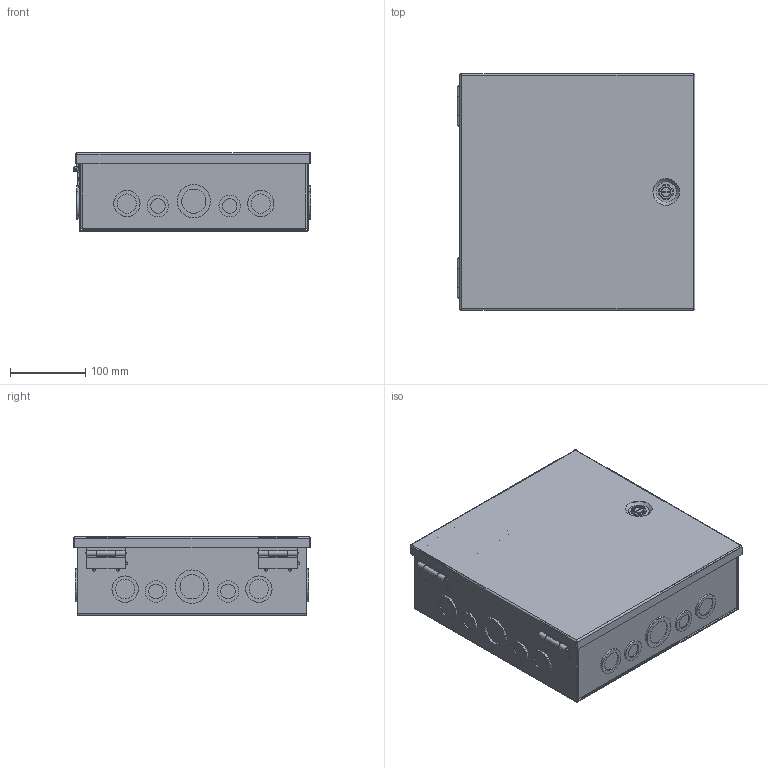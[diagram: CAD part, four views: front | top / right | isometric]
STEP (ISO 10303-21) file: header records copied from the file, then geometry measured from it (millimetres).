
FILE_DESCRIPTION( ( 'Unknown' ), '1' );
FILE_NAME( 'Q:/WEB DRAWINGS/STEP/SWB12124.stp', 'Unknown', ( 'Unknown' ), ( 'Unknown' ), 'PSStep 17.0.49', 'Unknown', ' ' );
FILE_SCHEMA( ( 'AUTOMOTIVE_DESIGN { 1 0 10303 214 1 1 1 1 }' ) );
Length unit declared in the file: millimetre
Products named in the file (11): HNG11000; HNG11000-2; HNG11000-3; Assem1; loc13368; SCS19515; QLB20292; COM56471; COM56466; COM56469
Assembly tree (12 placements, depth 3):
  Assem1
    loc13368
    SCS19515
    QLB20292
    COM56471
    COM56466  x2
    COM56469
    HNG11000  x2
      HNG11000
      HNG11000-2
      HNG11000-3
Bounding box: 316.05 x 314.45 x 104.6 mm (x, y, z)
Volume: 544323.4 mm3; surface area: 761491.1 mm2
Topology: 13 solids, 13 shells, 649 faces, 1520 edges, 1010 vertices
Faces by surface type: plane 404, cylinder 196, extrusion 22, bspline 10, cone 7, torus 6, sphere 4
Full cylindrical faces by diameter (mm): 3.175 x2, 3.327 x8, 4.318 x1, 4.826 x1, 7.137 x4, 7.214 x1, 7.9 x1, 8.1 x1, 8.128 x1, 9.3 x1, 9.525 x1, 11.9 x1, 12 x1, 12.1 x1, 12.497 x1, 12.7 x1, 13.9 x1, 19.329 x8, 20 x1, 22.225 x8, 25.679 x16, 28.575 x16, 32.029 x12, 34.925 x12, 41.554 x4, 44.45 x4
Entity records: 17369 total; most frequent: CARTESIAN_POINT 4317, DIRECTION 2465, ORIENTED_EDGE 2288, EDGE_CURVE 1144, AXIS2_PLACEMENT_3D 916, VERTEX_POINT 818, EDGE_LOOP 768, FACE_OUTER_BOUND 645
